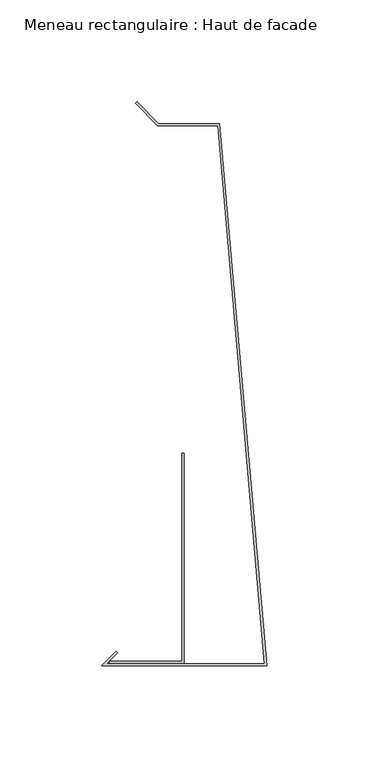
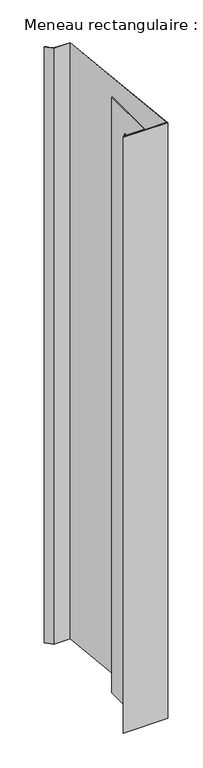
"""IFC4 building model written with IfcOpenShell, lengths in millimetres: member geometry, Meneau rectangulaire : Haut de facade."""

from ifc_helpers import new_model, si_unit, frame, origin, place, context, project, spatial, polyline, outline, extrude, source, transform, mapped, element, save


def meneau_rectangulaire_haut_de_facade_c206d6dd(model_context):
    return source(origin(), model_context, "Body", "SweptSolid", [
        extrude(outline(polyline([(-24.0647895, 160.703755), (-53.5626719, 160.703755), (-64.4621669, 171.6032499), (-63.7550601, 172.3103567), (-53.1484584, 161.703755), (-23.1484584, 161.703755), (0.0, -104.2), (-81.0, -104.2), (-73.9289322, -97.1289322), (-73.2218254, -97.836039), (-78.5857864, -103.2), (-1.0913085, -103.2), (-24.0647895, 160.703755)])), frame((0.0, 0.0, -1140.0), z_axis=(0.0, 0.0, 1.0), x_axis=(1.0, 0.0, 0.0)), (0.0, 0.0, 1.0), 1140.0),
        extrude(outline(polyline([(-40.5477541, -102.9846816), (-77.0752814, -102.9846816), (-77.0752814, -101.9846816), (-41.5477541, -101.9846816), (-41.5477541, -0.0384227), (-40.5477541, -0.0384227), (-40.5477541, -102.9846816)])), frame((0.0, 0.0, -1140.0), z_axis=(0.0, 0.0, 1.0), x_axis=(1.0, 0.0, 0.0)), (0.0, 0.0, 1.0), 1140.0),
    ])


if __name__ == "__main__":
    model = new_model("IFC4")
    model_context = context("Model", 3, world=origin())
    ifc_project = project(units=[si_unit("LENGTHUNIT", "METRE", prefix="MILLI")], contexts=[model_context])
    site = spatial("IfcSite", under=ifc_project)
    building = spatial("IfcBuilding", under=site)
    placement = place(None, origin())
    meneau_rectangulaire_haut_de_facade_shape = meneau_rectangulaire_haut_de_facade_c206d6dd(model_context)
    element("IfcMember", 1, ObjectType="Meneau rectangulaire : Haut de facade", at=placement, inside=building, context=model_context, shape_type="MappedRepresentation", body=[
        mapped(meneau_rectangulaire_haut_de_facade_shape, transform((0.0, 0.0, 0.0), x_axis=(1.0, 0.0, 0.0), y_axis=(0.0, 1.0, 0.0), z_axis=(0.0, 0.0, 1.0))),
    ])
    save(model, "model.ifc")
